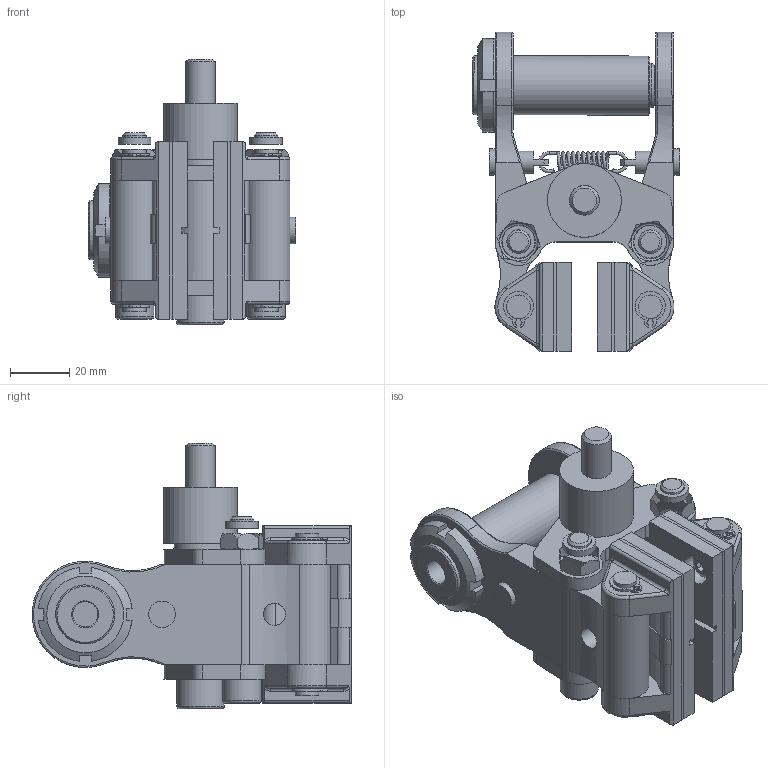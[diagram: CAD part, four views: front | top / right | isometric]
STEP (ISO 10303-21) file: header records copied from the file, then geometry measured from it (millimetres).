
FILE_DESCRIPTION(/* description */ ('','CAx-IF Rec.Pracs.---Representation and Presentation of Product Manufacturing Information (PMI)---4.0---2014-10-13'),/* implementation_level */ '2;1');
FILE_NAME(/* name */ 'X:\INVENTOR\DISEGNI\19_Pinze\STEP x Sito\PNEUM-POSITIVE\19_16_A01_02 PPAA01_08.stp',/* time_stamp */ '2018-02-16T16:29:57+01:00',/* author */ ('stefano'),/* organization */ (''),/* preprocessor_version */ 'ST-DEVELOPER v17',/* originating_system */ 'Autodesk Inventor 2018',/* authorisation */ '');
FILE_SCHEMA (('AP242_MANAGED_MODEL_BASED_3D_ENGINEERING_MIM_LF { 1 0 10303 442 1 1 4 }'));
Length unit declared in the file: millimetre
Products named in the file (1): 19_16_A01_02 PPAA01_08_Substitute_2
Bounding box: 70.09 x 108.11 x 90 mm (x, y, z)
Volume: 163359.4 mm3; surface area: 55112.5 mm2
Topology: 1 solids, 1 shells, 505 faces, 1370 edges, 893 vertices
Faces by surface type: plane 251, cylinder 156, torus 45, cone 29, bspline 21, sphere 3
Full cylindrical faces by diameter (mm): 1.1 x2, 2.5 x1, 7.4 x2, 7.5 x4, 7.6 x4, 8 x10, 8.566 x1, 9 x2, 9.5 x4, 10 x1, 10.1 x1, 10.5 x4, 11.05 x2, 13 x2, 15 x1, 16 x1, 18 x2, 20 x2, 25 x1
Entity records: 18796 total; most frequent: CARTESIAN_POINT 5391, DIRECTION 2744, ORIENTED_EDGE 2726, EDGE_CURVE 1363, AXIS2_PLACEMENT_3D 1059, VERTEX_POINT 893, LINE 626, VECTOR 626
